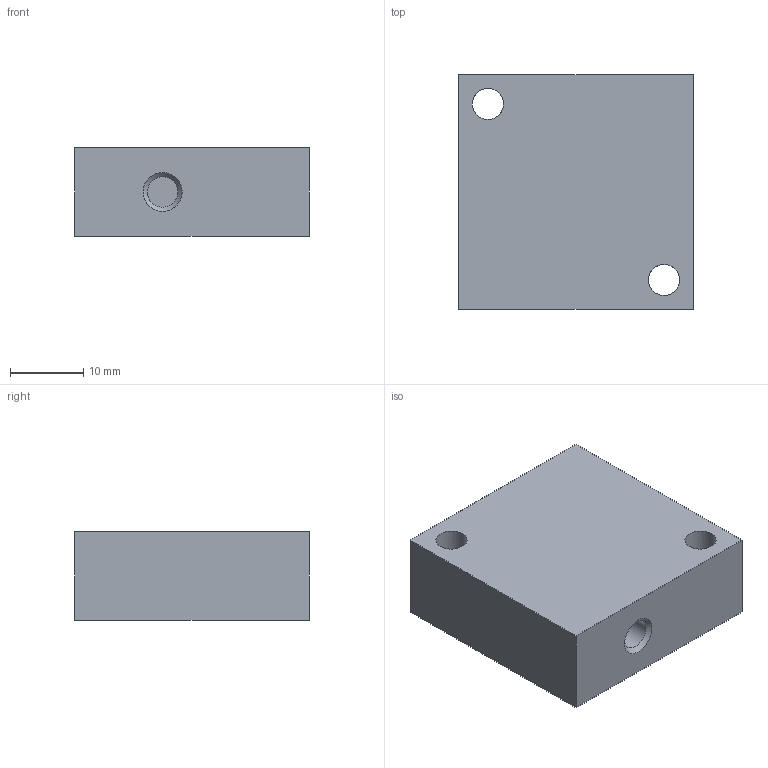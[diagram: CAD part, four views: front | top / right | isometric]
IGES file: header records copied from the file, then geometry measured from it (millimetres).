
Global section: file name: 300_10_05; native system: Autodesk Inventor 2014; preprocessor: unknown; author: A. Manieri; organization: Pneumax S.p.A.; date: 20161004.163555; units: millimetre
Bounding box: 32 x 32 x 12 mm (x, y, z)
Volume: 11394.4 mm3; surface area: 4261.3 mm2
Topology: 1 solids, 1 shells, 21 faces, 56 edges, 40 vertices
Faces by surface type: bspline 21
